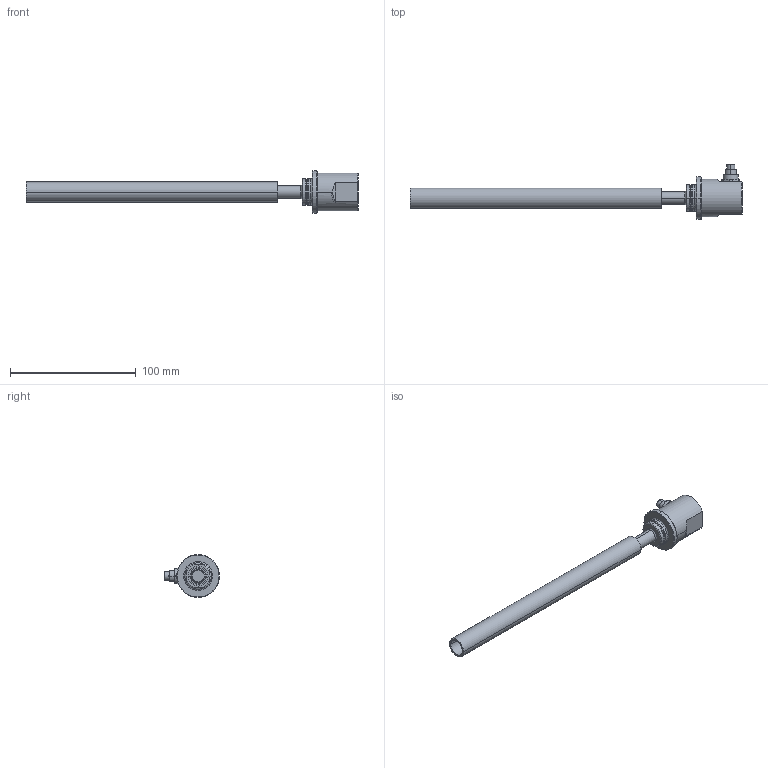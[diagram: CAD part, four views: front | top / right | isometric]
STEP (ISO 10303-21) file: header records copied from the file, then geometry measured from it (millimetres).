
FILE_DESCRIPTION((''),'2;1');
FILE_NAME('EDS-160-S-SR7_MIT_ROHR_ASM','2007-11-28T',('11000065'),(''),'PRO/ENGINEER BY PARAMETRIC TECHNOLOGY CORPORATION, 2007160','PRO/ENGINEER BY PARAMETRIC TECHNOLOGY CORPORATION, 2007160','');
FILE_SCHEMA(('AUTOMOTIVE_DESIGN { 1 2 10303 214 0 1 1 1 }'));
Length unit declared in the file: millimetre
Products named in the file (4): EDS-160-S-SR7; MESSROHR; O-RING-18X1_5; EDS-160-S-SR7_MIT_ROHR_ASM
Assembly tree (3 placements, depth 2):
  EDS-160-S-SR7_MIT_ROHR_ASM
    EDS-160-S-SR7
    MESSROHR
    O-RING-18X1_5
Bounding box: 264.5 x 43.69 x 34 mm (x, y, z)
Volume: 58760.3 mm3; surface area: 31762.6 mm2
Topology: 3 solids, 11 shells, 199 faces, 473 edges, 302 vertices
Faces by surface type: cylinder 93, plane 55, cone 20, sphere 14, torus 13, bspline 4
Entity records: 6555 total; most frequent: CARTESIAN_POINT 1352, DIRECTION 1092, ORIENTED_EDGE 918, AXIS2_PLACEMENT_3D 468, EDGE_CURVE 459, VERTEX_POINT 302, CIRCLE 266, EDGE_LOOP 237
